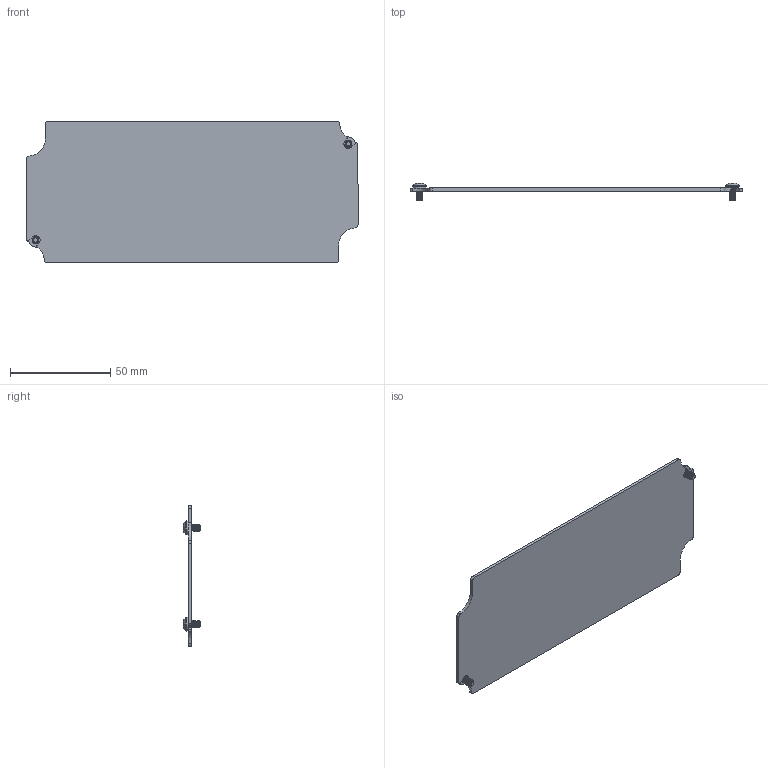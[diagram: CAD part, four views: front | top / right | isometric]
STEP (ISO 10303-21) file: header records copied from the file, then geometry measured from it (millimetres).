
FILE_DESCRIPTION (( 'STEP AP214' ), '1' );
FILE_NAME ('AN-21K.step', '2026-09-17T19:29:43', ( '' ), ( '' ), 'SwSTEP 2.0', 'SolidWorks 2026', '' );
FILE_SCHEMA (( 'AUTOMOTIVE_DESIGN' ));
Length unit declared in the file: inch
Products named in the file (3): SCREWS-050; AN-21-P_DEFAULT; AN-21K
Assembly tree (3 placements, depth 2):
  AN-21K
    AN-21-P_DEFAULT
    SCREWS-050  x2
Bounding box: 165.5 x 8.8 x 70.5 mm (x, y, z)
Volume: 17248.5 mm3; surface area: 23465.3 mm2
Topology: 3 solids, 3 shells, 700 faces, 1698 edges, 1002 vertices
Faces by surface type: bspline 368, cylinder 174, plane 62, sphere 48, cone 40, torus 8
Entity records: 17368 total; most frequent: CARTESIAN_POINT 10059, ORIENTED_EDGE 1778, DIRECTION 1045, EDGE_CURVE 889, VERTEX_POINT 529, B_SPLINE_CURVE_WITH_KNOTS 415, AXIS2_PLACEMENT_3D 384, EDGE_LOOP 366
